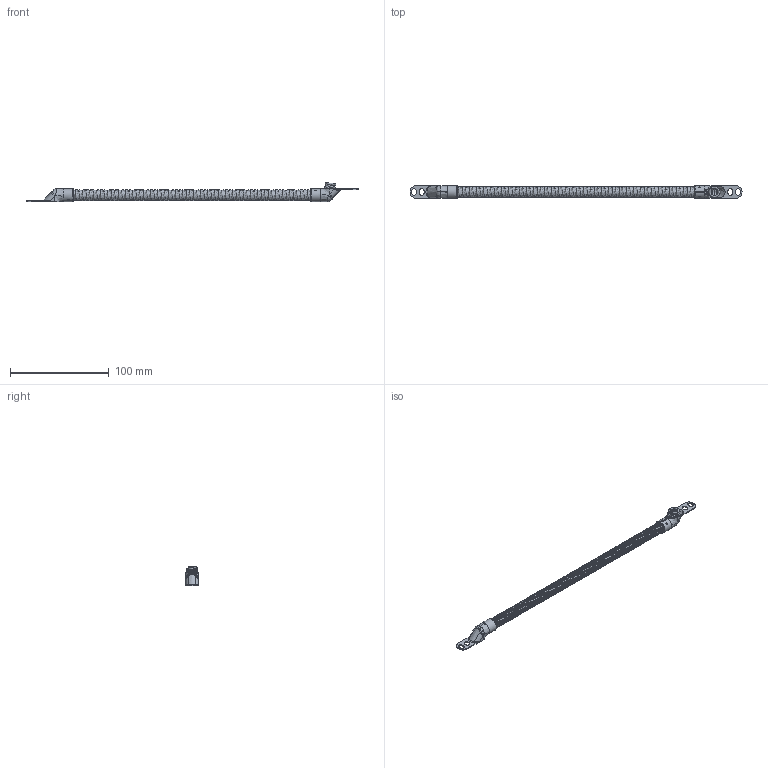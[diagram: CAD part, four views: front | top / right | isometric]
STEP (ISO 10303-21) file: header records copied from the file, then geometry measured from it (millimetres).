
FILE_DESCRIPTION((''),'2;1');
FILE_NAME('S:\Projekte\00 00 Datenarchiv\00.50- Kabelübergänge\M 11 87.stp','2011-08-19T07:15:21',('jsuarez'),(''),'Autodesk Inventor 2012','Autodesk Inventor 2012','');
FILE_SCHEMA(('AUTOMOTIVE_DESIGN { 1 0 10303 214 1 1 1 1 }'));
Length unit declared in the file: millimetre
Products named in the file (1): M 11 87
Bounding box: 337 x 13 x 19.62 mm (x, y, z)
Volume: 10868.6 mm3; surface area: 29703.8 mm2
Topology: 1 solids, 1 shells, 146 faces, 433 edges, 270 vertices
Faces by surface type: bspline 62, plane 42, cylinder 24, cone 8, revolution 4, sphere 4, torus 2
Full cylindrical faces by diameter (mm): 1.6 x2
Entity records: 23939 total; most frequent: CARTESIAN_POINT 20477, ORIENTED_EDGE 808, DIRECTION 460, EDGE_CURVE 404, VERTEX_POINT 260, B_SPLINE_CURVE_WITH_KNOTS 206, EDGE_LOOP 186, AXIS2_PLACEMENT_3D 181
